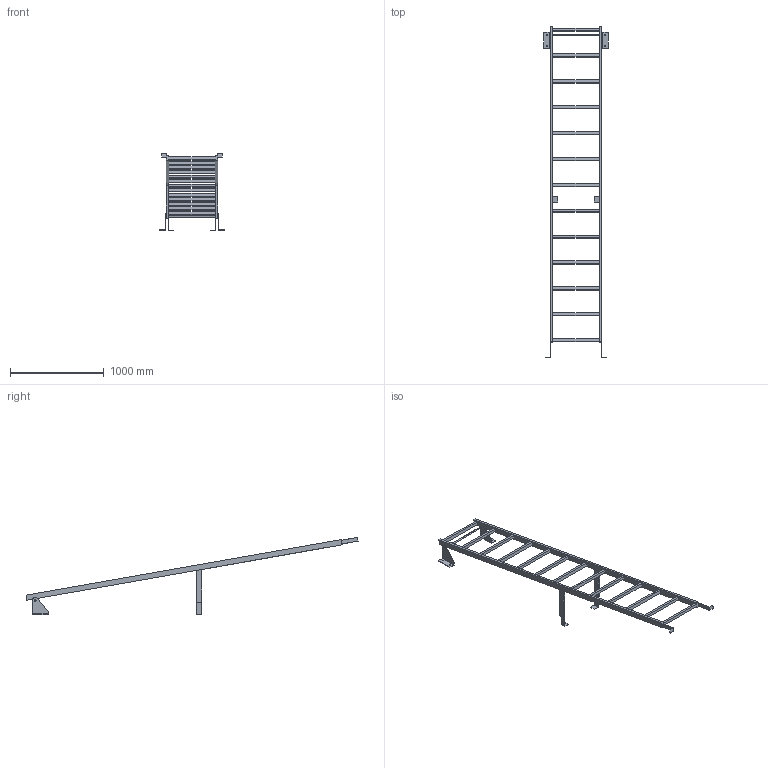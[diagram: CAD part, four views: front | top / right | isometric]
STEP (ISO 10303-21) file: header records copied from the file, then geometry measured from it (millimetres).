
FILE_DESCRIPTION((''),'2;1');
FILE_NAME('52309778','2024-10-17T09:04:10',('wep'),('HUBER SE'),'CREO PARAMETRIC BY PTC INC, 2022162','CREO PARAMETRIC BY PTC INC, 2022162','');
FILE_SCHEMA(('AUTOMOTIVE_DESIGN { 1 0 10303 214 1 1 1 1 }'));
Length unit declared in the file: millimetre
Products named in the file (1): 52309778
Bounding box: 690 x 3537.97 x 821.28 mm (x, y, z)
Volume: 17058309.7 mm3; surface area: 2273074.2 mm2
Topology: 6 solids, 6 shells, 136 faces, 360 edges, 240 vertices
Faces by surface type: plane 120, cylinder 16
Entity records: 4787 total; most frequent: CARTESIAN_POINT 738, ORIENTED_EDGE 720, DIRECTION 664, EDGE_CURVE 360, VECTOR 328, LINE 328, VERTEX_POINT 240, EDGE_LOOP 176
